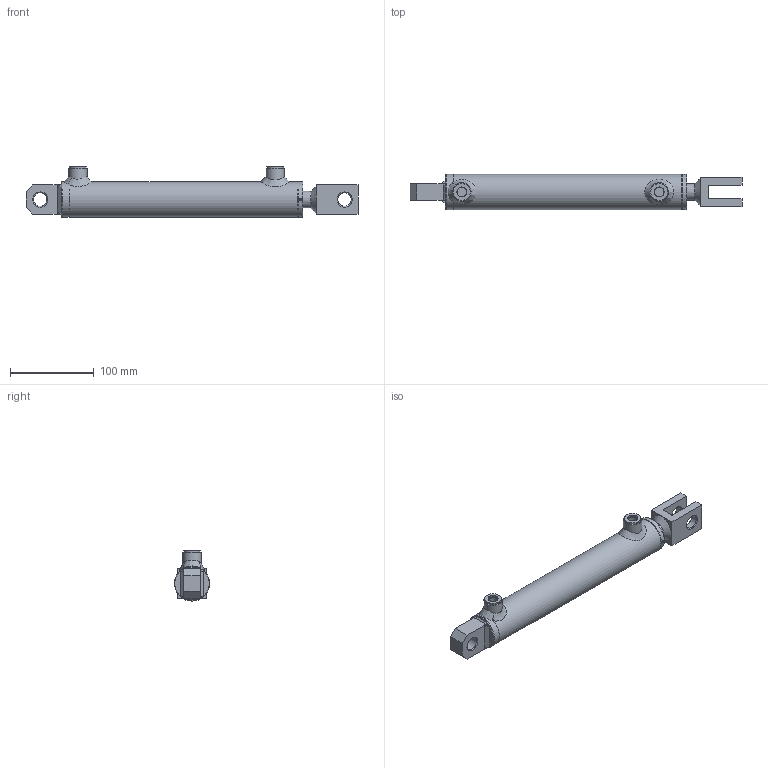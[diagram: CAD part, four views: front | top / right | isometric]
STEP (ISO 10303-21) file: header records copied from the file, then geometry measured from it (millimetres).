
FILE_DESCRIPTION( ( 'Unknown' ), '1' );
FILE_NAME( 'E:/LIBRERIA_3d/CILINDRI/HM5/HM5032200200.stp', 'Unknown', ( 'Unknown' ), ( 'Unknown' ), 'PSStep 17.0.49', 'Unknown', ' ' );
FILE_SCHEMA( ( 'AUTOMOTIVE_DESIGN { 1 0 10303 214 1 1 1 1 }' ) );
Length unit declared in the file: millimetre
Products named in the file (35): CG04203220; CT00032015; STFR032050200-oa8; Saldatura d'angolo 1-oa6; MAT_PRIMA_TUBO_FT04203200-oa7; CBSC220400; HM0032200200; Saldatura con preparazione 1-oa4; Saldatura d'angolo 1-oa5; CF00032042; CBS0400000; CDA0001415; APG0400000; SBL0200320200; Assem1; CSCS004010; CFS0000016; COF1600000; Saldatura con preparazione 1-oa0; Saldatura d'angolo 1-oa1; Saldatura d'angolo 2-oa2; Saldatura d'angolo 3-oa3
Assembly tree (22 placements, depth 4):
  Saldatura d'angolo 1-oa6
  Saldatura d'angolo 1-oa6
  Saldatura d'angolo 1-oa5
  Saldatura d'angolo 1-oa5
  Assem1
    CSCS004010  x2
    CFS0000016
    COF1600000
    Saldatura con preparazione 1-oa0
    Saldatura con preparazione 1-oa0
    HM0032200200
      Saldatura con preparazione 1-oa4
      Saldatura con preparazione 1-oa4
      CF00032042
      CBS0400000
      CDA0001415
      APG0400000  x2
      SBL0200320200
      CG04203220
        CG04203220
      CT00032015
        CT00032015
      STFR032050200-oa8
        MAT_PRIMA_TUBO_FT04203200-oa7
        CBSC220400
Bounding box: 397 x 42 x 60 mm (x, y, z)
Volume: 367729 mm3; surface area: 148868.7 mm2
Topology: 32 solids, 32 shells, 329 faces, 725 edges, 467 vertices
Faces by surface type: plane 118, cylinder 69, cone 60, bspline 50, torus 32
Full cylindrical faces by diameter (mm): 3 x2, 4 x2, 4.25 x3, 5 x2, 11.445 x2, 12 x2, 13.1 x2, 14 x2, 15 x3, 16.2 x3, 19.5 x1, 20 x10, 22 x4, 23 x1, 24 x1, 28 x3, 28.3 x1, 28.6 x1, 31.4 x2, 31.9 x1, 32 x1, 32.3 x1, 32.5 x1, 32.6 x1, 33 x1, 34 x3, 34.376 x1, 36 x1, 42 x5
Entity records: 13514 total; most frequent: CARTESIAN_POINT 5137, DIRECTION 1136, ORIENTED_EDGE 980, AXIS2_PLACEMENT_3D 508, EDGE_LOOP 506, EDGE_CURVE 490, FACE_OUTER_BOUND 412, VERTEX_POINT 393
